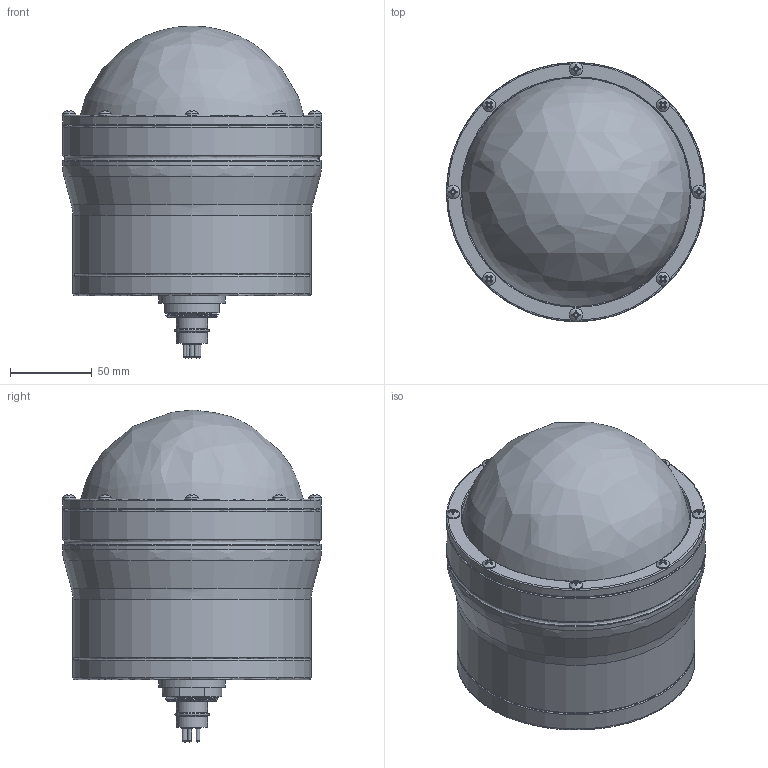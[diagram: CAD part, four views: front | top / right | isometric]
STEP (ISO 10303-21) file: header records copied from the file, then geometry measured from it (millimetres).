
FILE_DESCRIPTION (( 'STEP AP203' ), '1' );
FILE_NAME ('UWC-184-2.STEP', '2023-08-03T18:42:09', ( '' ), ( '' ), 'SwSTEP 2.0', 'SolidWorks 2020', '' );
FILE_SCHEMA (( 'CONFIG_CONTROL_DESIGN' ));
Length unit declared in the file: inch
Products named in the file (1): UWC-184-2
Bounding box: 158.95 x 158.95 x 203.53 mm (x, y, z)
Volume: 2038924.9 mm3; surface area: 174913.2 mm2
Topology: 3 solids, 28 shells, 543 faces, 1201 edges, 774 vertices
Faces by surface type: plane 253, cone 121, cylinder 112, bspline 57
Full cylindrical faces by diameter (mm): 1.778 x5, 2.337 x4, 3.175 x5, 3.251 x4, 3.454 x8, 3.937 x1, 4.064 x1, 4.166 x16, 4.496 x16, 5.105 x8, 6.858 x8, 7.938 x8, 8.128 x8, 18.923 x1, 19.05 x2, 29.972 x1, 37.592 x1, 41.021 x1, 44.45 x1, 137.16 x1, 140.335 x1, 142.596 x1, 143.129 x1, 146.05 x2, 158.75 x3
Entity records: 21438 total; most frequent: CARTESIAN_POINT 11238, DIRECTION 1992, ORIENTED_EDGE 1782, EDGE_CURVE 891, EDGE_LOOP 844, AXIS2_PLACEMENT_3D 831, FACE_OUTER_BOUND 694, VERTEX_POINT 657
